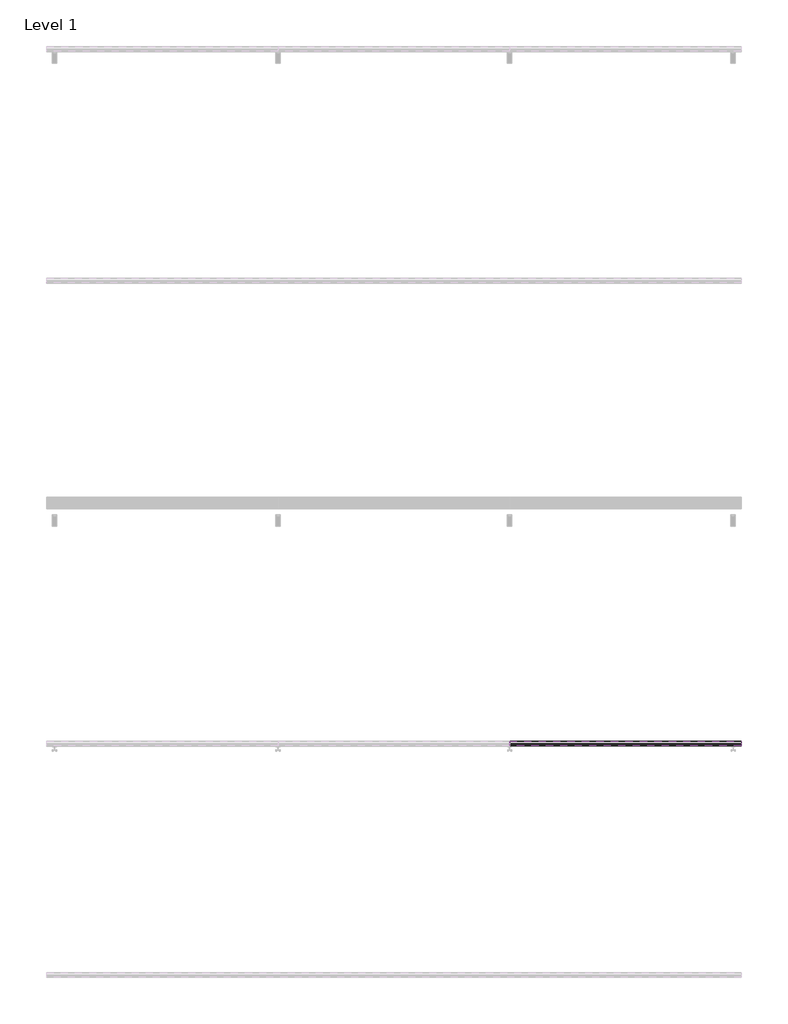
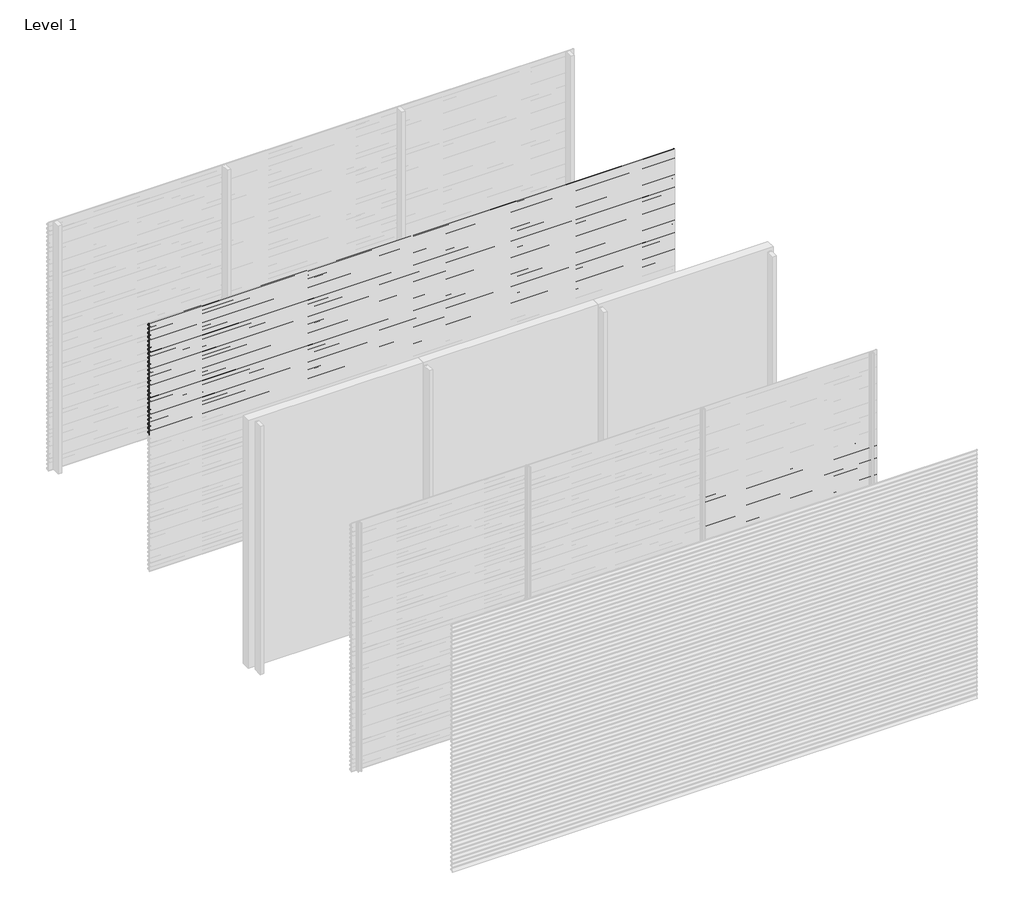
# One storey, part 13 of 38: 66 proxies.
"""IFC4 building model written with IfcOpenShell, lengths in millimetres."""

from ifc_helpers import new_model, si_unit, frame, origin, place, context, project, spatial, polyline, outline, extrude, element, save

model = new_model("IFC4")

# Units and contexts
model_context = context("Model", 3, world=origin())
ifc_project = project(units=[si_unit("LENGTHUNIT", "METRE", prefix="MILLI")], contexts=[model_context])

# Site, building, storey
site = spatial("IfcSite", under=ifc_project)
building = spatial("IfcBuilding", under=site)
storey = spatial("IfcBuildingStorey", under=building, Name="Level 1", Elevation=0.0)

# Proxies
placement = place(None, origin())
element("IfcBuildingElementProxy", 1, Name="Wall Sweeps", at=placement, inside=storey, context=model_context, shape_type="SweptSolid", body=[
    extrude(outline(polyline([(-37996.75, 3000.0), (-37996.75, 2989.19656), (-37974.6057113, 2976.4115489), (-37957.0, 2959.0472005), (-37957.0, 2944.0472005), (-37958.3, 2945.0268207), (-37958.3, 2958.5034593), (-37969.4914725, 2969.541504), (-37994.2797376, 2940.0), (-37995.9767671, 2940.0), (-37970.4200307, 2970.4573323), (-37975.3999793, 2975.3690091), (-37998.0, 2988.4171371), (-37998.0, 3000.0), (-37996.75, 3000.0)])), frame((0.0, 0.0, 0.0), z_axis=(1.0, 0.0, 0.0), x_axis=(0.0, 1.0, 0.0)), (0.0, 0.0, 1.0), 6000.0),
])
element("IfcBuildingElementProxy", 2, Name="Wall Sweeps", at=placement, inside=storey, context=model_context, shape_type="SweptSolid", body=[
    extrude(outline(polyline([(-37996.75, 2950.0), (-37996.75, 2939.19656), (-37974.6057113, 2926.4115489), (-37957.0, 2909.0472005), (-37957.0, 2894.0472005), (-37958.3, 2895.0268207), (-37958.3, 2908.5034593), (-37969.4914725, 2919.541504), (-37994.2797376, 2890.0), (-37995.9767671, 2890.0), (-37970.4200307, 2920.4573323), (-37975.3999793, 2925.3690091), (-37998.0, 2938.4171371), (-37998.0, 2950.0), (-37996.75, 2950.0)])), frame((0.0, 0.0, 0.0), z_axis=(1.0, 0.0, 0.0), x_axis=(0.0, 1.0, 0.0)), (0.0, 0.0, 1.0), 6000.0),
])
element("IfcBuildingElementProxy", 3, Name="Wall Sweeps", at=placement, inside=storey, context=model_context, shape_type="SweptSolid", body=[
    extrude(outline(polyline([(-37996.75, 2900.0), (-37996.75, 2889.19656), (-37974.6057113, 2876.4115489), (-37957.0, 2859.0472005), (-37957.0, 2844.0472005), (-37958.3, 2845.0268207), (-37958.3, 2858.5034593), (-37969.4914725, 2869.541504), (-37994.2797376, 2840.0), (-37995.9767671, 2840.0), (-37970.4200307, 2870.4573323), (-37975.3999793, 2875.3690091), (-37998.0, 2888.4171371), (-37998.0, 2900.0), (-37996.75, 2900.0)])), frame((0.0, 0.0, 0.0), z_axis=(1.0, 0.0, 0.0), x_axis=(0.0, 1.0, 0.0)), (0.0, 0.0, 1.0), 6000.0),
])
element("IfcBuildingElementProxy", 4, Name="Wall Sweeps", at=placement, inside=storey, context=model_context, shape_type="SweptSolid", body=[
    extrude(outline(polyline([(-37996.75, 2850.0), (-37996.75, 2839.19656), (-37974.6057113, 2826.4115489), (-37957.0, 2809.0472005), (-37957.0, 2794.0472005), (-37958.3, 2795.0268207), (-37958.3, 2808.5034593), (-37969.4914725, 2819.541504), (-37994.2797376, 2790.0), (-37995.9767671, 2790.0), (-37970.4200307, 2820.4573323), (-37975.3999793, 2825.3690091), (-37998.0, 2838.4171371), (-37998.0, 2850.0), (-37996.75, 2850.0)])), frame((0.0, 0.0, 0.0), z_axis=(1.0, 0.0, 0.0), x_axis=(0.0, 1.0, 0.0)), (0.0, 0.0, 1.0), 6000.0),
])
element("IfcBuildingElementProxy", 5, Name="Wall Sweeps", at=placement, inside=storey, context=model_context, shape_type="SweptSolid", body=[
    extrude(outline(polyline([(-37996.75, 2800.0), (-37996.75, 2789.19656), (-37974.6057113, 2776.4115489), (-37957.0, 2759.0472005), (-37957.0, 2744.0472005), (-37958.3, 2745.0268207), (-37958.3, 2758.5034593), (-37969.4914725, 2769.541504), (-37994.2797376, 2740.0), (-37995.9767671, 2740.0), (-37970.4200307, 2770.4573323), (-37975.3999793, 2775.3690091), (-37998.0, 2788.4171371), (-37998.0, 2800.0), (-37996.75, 2800.0)])), frame((0.0, 0.0, 0.0), z_axis=(1.0, 0.0, 0.0), x_axis=(0.0, 1.0, 0.0)), (0.0, 0.0, 1.0), 6000.0),
])
element("IfcBuildingElementProxy", 6, Name="Wall Sweeps", at=placement, inside=storey, context=model_context, shape_type="SweptSolid", body=[
    extrude(outline(polyline([(-37996.75, 2750.0), (-37996.75, 2739.19656), (-37974.6057113, 2726.4115489), (-37957.0, 2709.0472005), (-37957.0, 2694.0472005), (-37958.3, 2695.0268207), (-37958.3, 2708.5034593), (-37969.4914725, 2719.541504), (-37994.2797376, 2690.0), (-37995.9767671, 2690.0), (-37970.4200307, 2720.4573323), (-37975.3999793, 2725.3690091), (-37998.0, 2738.4171371), (-37998.0, 2750.0), (-37996.75, 2750.0)])), frame((0.0, 0.0, 0.0), z_axis=(1.0, 0.0, 0.0), x_axis=(0.0, 1.0, 0.0)), (0.0, 0.0, 1.0), 6000.0),
])
element("IfcBuildingElementProxy", 7, Name="Wall Sweeps", at=placement, inside=storey, context=model_context, shape_type="SweptSolid", body=[
    extrude(outline(polyline([(-37996.75, 2700.0), (-37996.75, 2689.19656), (-37974.6057113, 2676.4115489), (-37957.0, 2659.0472005), (-37957.0, 2644.0472005), (-37958.3, 2645.0268207), (-37958.3, 2658.5034593), (-37969.4914725, 2669.541504), (-37994.2797376, 2640.0), (-37995.9767671, 2640.0), (-37970.4200307, 2670.4573323), (-37975.3999793, 2675.3690091), (-37998.0, 2688.4171371), (-37998.0, 2700.0), (-37996.75, 2700.0)])), frame((0.0, 0.0, 0.0), z_axis=(1.0, 0.0, 0.0), x_axis=(0.0, 1.0, 0.0)), (0.0, 0.0, 1.0), 6000.0),
])
element("IfcBuildingElementProxy", 8, Name="Wall Sweeps", at=placement, inside=storey, context=model_context, shape_type="SweptSolid", body=[
    extrude(outline(polyline([(-37996.75, 2650.0), (-37996.75, 2639.19656), (-37974.6057113, 2626.4115489), (-37957.0, 2609.0472005), (-37957.0, 2594.0472005), (-37958.3, 2595.0268207), (-37958.3, 2608.5034593), (-37969.4914725, 2619.541504), (-37994.2797376, 2590.0), (-37995.9767671, 2590.0), (-37970.4200307, 2620.4573323), (-37975.3999793, 2625.3690091), (-37998.0, 2638.4171371), (-37998.0, 2650.0), (-37996.75, 2650.0)])), frame((0.0, 0.0, 0.0), z_axis=(1.0, 0.0, 0.0), x_axis=(0.0, 1.0, 0.0)), (0.0, 0.0, 1.0), 6000.0),
])
element("IfcBuildingElementProxy", 9, Name="Wall Sweeps", at=placement, inside=storey, context=model_context, shape_type="SweptSolid", body=[
    extrude(outline(polyline([(-37996.75, 2600.0), (-37996.75, 2589.19656), (-37974.6057113, 2576.4115489), (-37957.0, 2559.0472005), (-37957.0, 2544.0472005), (-37958.3, 2545.0268207), (-37958.3, 2558.5034593), (-37969.4914725, 2569.541504), (-37994.2797376, 2540.0), (-37995.9767671, 2540.0), (-37970.4200307, 2570.4573323), (-37975.3999793, 2575.3690091), (-37998.0, 2588.4171371), (-37998.0, 2600.0), (-37996.75, 2600.0)])), frame((0.0, 0.0, 0.0), z_axis=(1.0, 0.0, 0.0), x_axis=(0.0, 1.0, 0.0)), (0.0, 0.0, 1.0), 6000.0),
])
element("IfcBuildingElementProxy", 10, Name="Wall Sweeps", at=placement, inside=storey, context=model_context, shape_type="SweptSolid", body=[
    extrude(outline(polyline([(-37996.75, 2550.0), (-37996.75, 2539.19656), (-37974.6057113, 2526.4115489), (-37957.0, 2509.0472005), (-37957.0, 2494.0472005), (-37958.3, 2495.0268207), (-37958.3, 2508.5034593), (-37969.4914725, 2519.541504), (-37994.2797376, 2490.0), (-37995.9767671, 2490.0), (-37970.4200307, 2520.4573323), (-37975.3999793, 2525.3690091), (-37998.0, 2538.4171371), (-37998.0, 2550.0), (-37996.75, 2550.0)])), frame((0.0, 0.0, 0.0), z_axis=(1.0, 0.0, 0.0), x_axis=(0.0, 1.0, 0.0)), (0.0, 0.0, 1.0), 6000.0),
])
element("IfcBuildingElementProxy", 11, Name="Wall Sweeps", at=placement, inside=storey, context=model_context, shape_type="SweptSolid", body=[
    extrude(outline(polyline([(-37996.75, 2500.0), (-37996.75, 2489.19656), (-37974.6057113, 2476.4115489), (-37957.0, 2459.0472005), (-37957.0, 2444.0472005), (-37958.3, 2445.0268207), (-37958.3, 2458.5034593), (-37969.4914725, 2469.541504), (-37994.2797376, 2440.0), (-37995.9767671, 2440.0), (-37970.4200307, 2470.4573323), (-37975.3999793, 2475.3690091), (-37998.0, 2488.4171371), (-37998.0, 2500.0), (-37996.75, 2500.0)])), frame((0.0, 0.0, 0.0), z_axis=(1.0, 0.0, 0.0), x_axis=(0.0, 1.0, 0.0)), (0.0, 0.0, 1.0), 6000.0),
])
element("IfcBuildingElementProxy", 12, Name="Wall Sweeps", at=placement, inside=storey, context=model_context, shape_type="SweptSolid", body=[
    extrude(outline(polyline([(-37996.75, 2450.0), (-37996.75, 2439.19656), (-37974.6057113, 2426.4115489), (-37957.0, 2409.0472005), (-37957.0, 2394.0472005), (-37958.3, 2395.0268207), (-37958.3, 2408.5034593), (-37969.4914725, 2419.541504), (-37994.2797376, 2390.0), (-37995.9767671, 2390.0), (-37970.4200307, 2420.4573323), (-37975.3999793, 2425.3690091), (-37998.0, 2438.4171371), (-37998.0, 2450.0), (-37996.75, 2450.0)])), frame((0.0, 0.0, 0.0), z_axis=(1.0, 0.0, 0.0), x_axis=(0.0, 1.0, 0.0)), (0.0, 0.0, 1.0), 6000.0),
])
element("IfcBuildingElementProxy", 13, Name="Wall Sweeps", at=placement, inside=storey, context=model_context, shape_type="SweptSolid", body=[
    extrude(outline(polyline([(-37996.75, 2400.0), (-37996.75, 2389.19656), (-37974.6057113, 2376.4115489), (-37957.0, 2359.0472005), (-37957.0, 2344.0472005), (-37958.3, 2345.0268207), (-37958.3, 2358.5034593), (-37969.4914725, 2369.541504), (-37994.2797376, 2340.0), (-37995.9767671, 2340.0), (-37970.4200307, 2370.4573323), (-37975.3999793, 2375.3690091), (-37998.0, 2388.4171371), (-37998.0, 2400.0), (-37996.75, 2400.0)])), frame((0.0, 0.0, 0.0), z_axis=(1.0, 0.0, 0.0), x_axis=(0.0, 1.0, 0.0)), (0.0, 0.0, 1.0), 6000.0),
])
element("IfcBuildingElementProxy", 14, Name="Wall Sweeps", at=placement, inside=storey, context=model_context, shape_type="SweptSolid", body=[
    extrude(outline(polyline([(-37996.75, 2350.0), (-37996.75, 2339.19656), (-37974.6057113, 2326.4115489), (-37957.0, 2309.0472005), (-37957.0, 2294.0472005), (-37958.3, 2295.0268207), (-37958.3, 2308.5034593), (-37969.4914725, 2319.541504), (-37994.2797376, 2290.0), (-37995.9767671, 2290.0), (-37970.4200307, 2320.4573323), (-37975.3999793, 2325.3690091), (-37998.0, 2338.4171371), (-37998.0, 2350.0), (-37996.75, 2350.0)])), frame((0.0, 0.0, 0.0), z_axis=(1.0, 0.0, 0.0), x_axis=(0.0, 1.0, 0.0)), (0.0, 0.0, 1.0), 6000.0),
])
element("IfcBuildingElementProxy", 15, Name="Wall Sweeps", at=placement, inside=storey, context=model_context, shape_type="SweptSolid", body=[
    extrude(outline(polyline([(-37996.75, 2300.0), (-37996.75, 2289.19656), (-37974.6057113, 2276.4115489), (-37957.0, 2259.0472005), (-37957.0, 2244.0472005), (-37958.3, 2245.0268207), (-37958.3, 2258.5034593), (-37969.4914725, 2269.541504), (-37994.2797376, 2240.0), (-37995.9767671, 2240.0), (-37970.4200307, 2270.4573323), (-37975.3999793, 2275.3690091), (-37998.0, 2288.4171371), (-37998.0, 2300.0), (-37996.75, 2300.0)])), frame((0.0, 0.0, 0.0), z_axis=(1.0, 0.0, 0.0), x_axis=(0.0, 1.0, 0.0)), (0.0, 0.0, 1.0), 6000.0),
])
element("IfcBuildingElementProxy", 16, Name="Wall Sweeps", at=placement, inside=storey, context=model_context, shape_type="SweptSolid", body=[
    extrude(outline(polyline([(-37996.75, 2250.0), (-37996.75, 2239.19656), (-37974.6057113, 2226.4115489), (-37957.0, 2209.0472005), (-37957.0, 2194.0472005), (-37958.3, 2195.0268207), (-37958.3, 2208.5034593), (-37969.4914725, 2219.541504), (-37994.2797376, 2190.0), (-37995.9767671, 2190.0), (-37970.4200307, 2220.4573323), (-37975.3999793, 2225.3690091), (-37998.0, 2238.4171371), (-37998.0, 2250.0), (-37996.75, 2250.0)])), frame((0.0, 0.0, 0.0), z_axis=(1.0, 0.0, 0.0), x_axis=(0.0, 1.0, 0.0)), (0.0, 0.0, 1.0), 6000.0),
])
element("IfcBuildingElementProxy", 17, Name="Wall Sweeps", at=placement, inside=storey, context=model_context, shape_type="SweptSolid", body=[
    extrude(outline(polyline([(-37996.75, 2200.0), (-37996.75, 2189.19656), (-37974.6057113, 2176.4115489), (-37957.0, 2159.0472005), (-37957.0, 2144.0472005), (-37958.3, 2145.0268207), (-37958.3, 2158.5034593), (-37969.4914725, 2169.541504), (-37994.2797376, 2140.0), (-37995.9767671, 2140.0), (-37970.4200307, 2170.4573323), (-37975.3999793, 2175.3690091), (-37998.0, 2188.4171371), (-37998.0, 2200.0), (-37996.75, 2200.0)])), frame((0.0, 0.0, 0.0), z_axis=(1.0, 0.0, 0.0), x_axis=(0.0, 1.0, 0.0)), (0.0, 0.0, 1.0), 6000.0),
])
element("IfcBuildingElementProxy", 18, Name="Wall Sweeps", at=placement, inside=storey, context=model_context, shape_type="SweptSolid", body=[
    extrude(outline(polyline([(-37996.75, 2150.0), (-37996.75, 2139.19656), (-37974.6057113, 2126.4115489), (-37957.0, 2109.0472005), (-37957.0, 2094.0472005), (-37958.3, 2095.0268207), (-37958.3, 2108.5034593), (-37969.4914725, 2119.541504), (-37994.2797376, 2090.0), (-37995.9767671, 2090.0), (-37970.4200307, 2120.4573323), (-37975.3999793, 2125.3690091), (-37998.0, 2138.4171371), (-37998.0, 2150.0), (-37996.75, 2150.0)])), frame((0.0, 0.0, 0.0), z_axis=(1.0, 0.0, 0.0), x_axis=(0.0, 1.0, 0.0)), (0.0, 0.0, 1.0), 6000.0),
])
element("IfcBuildingElementProxy", 19, Name="Wall Sweeps", at=placement, inside=storey, context=model_context, shape_type="SweptSolid", body=[
    extrude(outline(polyline([(-37996.75, 2100.0), (-37996.75, 2089.19656), (-37974.6057113, 2076.4115489), (-37957.0, 2059.0472005), (-37957.0, 2044.0472005), (-37958.3, 2045.0268207), (-37958.3, 2058.5034593), (-37969.4914725, 2069.541504), (-37994.2797376, 2040.0), (-37995.9767671, 2040.0), (-37970.4200307, 2070.4573323), (-37975.3999793, 2075.3690091), (-37998.0, 2088.4171371), (-37998.0, 2100.0), (-37996.75, 2100.0)])), frame((0.0, 0.0, 0.0), z_axis=(1.0, 0.0, 0.0), x_axis=(0.0, 1.0, 0.0)), (0.0, 0.0, 1.0), 6000.0),
])
element("IfcBuildingElementProxy", 20, Name="Wall Sweeps", at=placement, inside=storey, context=model_context, shape_type="SweptSolid", body=[
    extrude(outline(polyline([(-37996.75, 2050.0), (-37996.75, 2039.19656), (-37974.6057113, 2026.4115489), (-37957.0, 2009.0472005), (-37957.0, 1994.0472005), (-37958.3, 1995.0268207), (-37958.3, 2008.5034593), (-37969.4914725, 2019.541504), (-37994.2797376, 1990.0), (-37995.9767671, 1990.0), (-37970.4200307, 2020.4573323), (-37975.3999793, 2025.3690091), (-37998.0, 2038.4171371), (-37998.0, 2050.0), (-37996.75, 2050.0)])), frame((0.0, 0.0, 0.0), z_axis=(1.0, 0.0, 0.0), x_axis=(0.0, 1.0, 0.0)), (0.0, 0.0, 1.0), 6000.0),
])
element("IfcBuildingElementProxy", 21, Name="Wall Sweeps", at=placement, inside=storey, context=model_context, shape_type="SweptSolid", body=[
    extrude(outline(polyline([(-37996.75, 2000.0), (-37996.75, 1989.19656), (-37974.6057113, 1976.4115489), (-37957.0, 1959.0472005), (-37957.0, 1944.0472005), (-37958.3, 1945.0268207), (-37958.3, 1958.5034593), (-37969.4914725, 1969.541504), (-37994.2797376, 1940.0), (-37995.9767671, 1940.0), (-37970.4200307, 1970.4573323), (-37975.3999793, 1975.3690091), (-37998.0, 1988.4171371), (-37998.0, 2000.0), (-37996.75, 2000.0)])), frame((0.0, 0.0, 0.0), z_axis=(1.0, 0.0, 0.0), x_axis=(0.0, 1.0, 0.0)), (0.0, 0.0, 1.0), 6000.0),
])
element("IfcBuildingElementProxy", 22, Name="Wall Sweeps", at=placement, inside=storey, context=model_context, shape_type="SweptSolid", body=[
    extrude(outline(polyline([(-37996.75, 1950.0), (-37996.75, 1939.19656), (-37974.6057113, 1926.4115489), (-37957.0, 1909.0472005), (-37957.0, 1894.0472005), (-37958.3, 1895.0268207), (-37958.3, 1908.5034593), (-37969.4914725, 1919.541504), (-37994.2797376, 1890.0), (-37995.9767671, 1890.0), (-37970.4200307, 1920.4573323), (-37975.3999793, 1925.3690091), (-37998.0, 1938.4171371), (-37998.0, 1950.0), (-37996.75, 1950.0)])), frame((0.0, 0.0, 0.0), z_axis=(1.0, 0.0, 0.0), x_axis=(0.0, 1.0, 0.0)), (0.0, 0.0, 1.0), 6000.0),
])
element("IfcBuildingElementProxy", 23, Name="Wall Sweeps", at=placement, inside=storey, context=model_context, shape_type="SweptSolid", body=[
    extrude(outline(polyline([(-37996.75, 1900.0), (-37996.75, 1889.19656), (-37974.6057113, 1876.4115489), (-37957.0, 1859.0472005), (-37957.0, 1844.0472005), (-37958.3, 1845.0268207), (-37958.3, 1858.5034593), (-37969.4914725, 1869.541504), (-37994.2797376, 1840.0), (-37995.9767671, 1840.0), (-37970.4200307, 1870.4573323), (-37975.3999793, 1875.3690091), (-37998.0, 1888.4171371), (-37998.0, 1900.0), (-37996.75, 1900.0)])), frame((0.0, 0.0, 0.0), z_axis=(1.0, 0.0, 0.0), x_axis=(0.0, 1.0, 0.0)), (0.0, 0.0, 1.0), 6000.0),
])
element("IfcBuildingElementProxy", 24, Name="Wall Sweeps", at=placement, inside=storey, context=model_context, shape_type="SweptSolid", body=[
    extrude(outline(polyline([(-37996.75, 1850.0), (-37996.75, 1839.19656), (-37974.6057113, 1826.4115489), (-37957.0, 1809.0472005), (-37957.0, 1794.0472005), (-37958.3, 1795.0268207), (-37958.3, 1808.5034593), (-37969.4914725, 1819.541504), (-37994.2797376, 1790.0), (-37995.9767671, 1790.0), (-37970.4200307, 1820.4573323), (-37975.3999793, 1825.3690091), (-37998.0, 1838.4171371), (-37998.0, 1850.0), (-37996.75, 1850.0)])), frame((0.0, 0.0, 0.0), z_axis=(1.0, 0.0, 0.0), x_axis=(0.0, 1.0, 0.0)), (0.0, 0.0, 1.0), 6000.0),
])
element("IfcBuildingElementProxy", 25, Name="Wall Sweeps", at=placement, inside=storey, context=model_context, shape_type="SweptSolid", body=[
    extrude(outline(polyline([(-37996.75, 1800.0), (-37996.75, 1789.19656), (-37974.6057113, 1776.4115489), (-37957.0, 1759.0472005), (-37957.0, 1744.0472005), (-37958.3, 1745.0268207), (-37958.3, 1758.5034593), (-37969.4914725, 1769.541504), (-37994.2797376, 1740.0), (-37995.9767671, 1740.0), (-37970.4200307, 1770.4573323), (-37975.3999793, 1775.3690091), (-37998.0, 1788.4171371), (-37998.0, 1800.0), (-37996.75, 1800.0)])), frame((0.0, 0.0, 0.0), z_axis=(1.0, 0.0, 0.0), x_axis=(0.0, 1.0, 0.0)), (0.0, 0.0, 1.0), 6000.0),
])
element("IfcBuildingElementProxy", 26, Name="Wall Sweeps", at=placement, inside=storey, context=model_context, shape_type="SweptSolid", body=[
    extrude(outline(polyline([(-37996.75, 1750.0), (-37996.75, 1739.19656), (-37974.6057113, 1726.4115489), (-37957.0, 1709.0472005), (-37957.0, 1694.0472005), (-37958.3, 1695.0268207), (-37958.3, 1708.5034593), (-37969.4914725, 1719.541504), (-37994.2797376, 1690.0), (-37995.9767671, 1690.0), (-37970.4200307, 1720.4573323), (-37975.3999793, 1725.3690091), (-37998.0, 1738.4171371), (-37998.0, 1750.0), (-37996.75, 1750.0)])), frame((0.0, 0.0, 0.0), z_axis=(1.0, 0.0, 0.0), x_axis=(0.0, 1.0, 0.0)), (0.0, 0.0, 1.0), 6000.0),
])
element("IfcBuildingElementProxy", 27, Name="Wall Sweeps", at=placement, inside=storey, context=model_context, shape_type="SweptSolid", body=[
    extrude(outline(polyline([(-37996.75, 1700.0), (-37996.75, 1689.19656), (-37974.6057113, 1676.4115489), (-37957.0, 1659.0472005), (-37957.0, 1644.0472005), (-37958.3, 1645.0268207), (-37958.3, 1658.5034593), (-37969.4914725, 1669.541504), (-37994.2797376, 1640.0), (-37995.9767671, 1640.0), (-37970.4200307, 1670.4573323), (-37975.3999793, 1675.3690091), (-37998.0, 1688.4171371), (-37998.0, 1700.0), (-37996.75, 1700.0)])), frame((0.0, 0.0, 0.0), z_axis=(1.0, 0.0, 0.0), x_axis=(0.0, 1.0, 0.0)), (0.0, 0.0, 1.0), 6000.0),
])
element("IfcBuildingElementProxy", 28, Name="Wall Sweeps", at=placement, inside=storey, context=model_context, shape_type="SweptSolid", body=[
    extrude(outline(polyline([(-41996.75, 1950.0), (-41996.75, 1939.19656), (-41974.6057113, 1926.4115489), (-41957.0, 1909.0472005), (-41957.0, 1894.0472005), (-41958.3, 1895.0268207), (-41958.3, 1908.5034593), (-41969.4914725, 1919.541504), (-41994.2797376, 1890.0), (-41995.9767671, 1890.0), (-41970.4200307, 1920.4573323), (-41975.3999793, 1925.3690091), (-41998.0, 1938.4171371), (-41998.0, 1950.0), (-41996.75, 1950.0)])), frame((4000.0, 0.0, 0.0), z_axis=(1.0, 0.0, 0.0), x_axis=(0.0, 1.0, 0.0)), (0.0, 0.0, 1.0), 2000.0),
])
element("IfcBuildingElementProxy", 29, Name="Wall Sweeps", at=placement, inside=storey, context=model_context, shape_type="SweptSolid", body=[
    extrude(outline(polyline([(-41996.75, 1900.0), (-41996.75, 1889.19656), (-41974.6057113, 1876.4115489), (-41957.0, 1859.0472005), (-41957.0, 1844.0472005), (-41958.3, 1845.0268207), (-41958.3, 1858.5034593), (-41969.4914725, 1869.541504), (-41994.2797376, 1840.0), (-41995.9767671, 1840.0), (-41970.4200307, 1870.4573323), (-41975.3999793, 1875.3690091), (-41998.0, 1888.4171371), (-41998.0, 1900.0), (-41996.75, 1900.0)])), frame((4000.0, 0.0, 0.0), z_axis=(1.0, 0.0, 0.0), x_axis=(0.0, 1.0, 0.0)), (0.0, 0.0, 1.0), 2000.0),
])
element("IfcBuildingElementProxy", 30, Name="Wall Sweeps", at=placement, inside=storey, context=model_context, shape_type="SweptSolid", body=[
    extrude(outline(polyline([(-41996.75, 1850.0), (-41996.75, 1839.19656), (-41974.6057113, 1826.4115489), (-41957.0, 1809.0472005), (-41957.0, 1794.0472005), (-41958.3, 1795.0268207), (-41958.3, 1808.5034593), (-41969.4914725, 1819.541504), (-41994.2797376, 1790.0), (-41995.9767671, 1790.0), (-41970.4200307, 1820.4573323), (-41975.3999793, 1825.3690091), (-41998.0, 1838.4171371), (-41998.0, 1850.0), (-41996.75, 1850.0)])), frame((4000.0, 0.0, 0.0), z_axis=(1.0, 0.0, 0.0), x_axis=(0.0, 1.0, 0.0)), (0.0, 0.0, 1.0), 2000.0),
])
element("IfcBuildingElementProxy", 31, Name="Wall Sweeps", at=placement, inside=storey, context=model_context, shape_type="SweptSolid", body=[
    extrude(outline(polyline([(-41996.75, 1800.0), (-41996.75, 1789.19656), (-41974.6057113, 1776.4115489), (-41957.0, 1759.0472005), (-41957.0, 1744.0472005), (-41958.3, 1745.0268207), (-41958.3, 1758.5034593), (-41969.4914725, 1769.541504), (-41994.2797376, 1740.0), (-41995.9767671, 1740.0), (-41970.4200307, 1770.4573323), (-41975.3999793, 1775.3690091), (-41998.0, 1788.4171371), (-41998.0, 1800.0), (-41996.75, 1800.0)])), frame((4000.0, 0.0, 0.0), z_axis=(1.0, 0.0, 0.0), x_axis=(0.0, 1.0, 0.0)), (0.0, 0.0, 1.0), 2000.0),
])
element("IfcBuildingElementProxy", 32, Name="Wall Sweeps", at=placement, inside=storey, context=model_context, shape_type="SweptSolid", body=[
    extrude(outline(polyline([(-41996.75, 1750.0), (-41996.75, 1739.19656), (-41974.6057113, 1726.4115489), (-41957.0, 1709.0472005), (-41957.0, 1694.0472005), (-41958.3, 1695.0268207), (-41958.3, 1708.5034593), (-41969.4914725, 1719.541504), (-41994.2797376, 1690.0), (-41995.9767671, 1690.0), (-41970.4200307, 1720.4573323), (-41975.3999793, 1725.3690091), (-41998.0, 1738.4171371), (-41998.0, 1750.0), (-41996.75, 1750.0)])), frame((4000.0, 0.0, 0.0), z_axis=(1.0, 0.0, 0.0), x_axis=(0.0, 1.0, 0.0)), (0.0, 0.0, 1.0), 2000.0),
])
element("IfcBuildingElementProxy", 33, Name="Wall Sweeps", at=placement, inside=storey, context=model_context, shape_type="SweptSolid", body=[
    extrude(outline(polyline([(-41996.75, 1700.0), (-41996.75, 1689.19656), (-41974.6057113, 1676.4115489), (-41957.0, 1659.0472005), (-41957.0, 1644.0472005), (-41958.3, 1645.0268207), (-41958.3, 1658.5034593), (-41969.4914725, 1669.541504), (-41994.2797376, 1640.0), (-41995.9767671, 1640.0), (-41970.4200307, 1670.4573323), (-41975.3999793, 1675.3690091), (-41998.0, 1688.4171371), (-41998.0, 1700.0), (-41996.75, 1700.0)])), frame((4000.0, 0.0, 0.0), z_axis=(1.0, 0.0, 0.0), x_axis=(0.0, 1.0, 0.0)), (0.0, 0.0, 1.0), 2000.0),
])
element("IfcBuildingElementProxy", 34, Name="Wall Sweeps", at=placement, inside=storey, context=model_context, shape_type="SweptSolid", body=[
    extrude(outline(polyline([(-41996.75, 1650.0), (-41996.75, 1639.19656), (-41974.6057113, 1626.4115489), (-41957.0, 1609.0472005), (-41957.0, 1594.0472005), (-41958.3, 1595.0268207), (-41958.3, 1608.5034593), (-41969.4914725, 1619.541504), (-41994.2797376, 1590.0), (-41995.9767671, 1590.0), (-41970.4200307, 1620.4573323), (-41975.3999793, 1625.3690091), (-41998.0, 1638.4171371), (-41998.0, 1650.0), (-41996.75, 1650.0)])), frame((4000.0, 0.0, 0.0), z_axis=(1.0, 0.0, 0.0), x_axis=(0.0, 1.0, 0.0)), (0.0, 0.0, 1.0), 2000.0),
])
element("IfcBuildingElementProxy", 35, Name="Wall Sweeps", at=placement, inside=storey, context=model_context, shape_type="SweptSolid", body=[
    extrude(outline(polyline([(-41996.75, 1600.0), (-41996.75, 1589.19656), (-41974.6057113, 1576.4115489), (-41957.0, 1559.0472005), (-41957.0, 1544.0472005), (-41958.3, 1545.0268207), (-41958.3, 1558.5034593), (-41969.4914725, 1569.541504), (-41994.2797376, 1540.0), (-41995.9767671, 1540.0), (-41970.4200307, 1570.4573323), (-41975.3999793, 1575.3690091), (-41998.0, 1588.4171371), (-41998.0, 1600.0), (-41996.75, 1600.0)])), frame((4000.0, 0.0, 0.0), z_axis=(1.0, 0.0, 0.0), x_axis=(0.0, 1.0, 0.0)), (0.0, 0.0, 1.0), 2000.0),
])
element("IfcBuildingElementProxy", 36, Name="Wall Sweeps", at=placement, inside=storey, context=model_context, shape_type="SweptSolid", body=[
    extrude(outline(polyline([(-41996.75, 1550.0), (-41996.75, 1539.19656), (-41974.6057113, 1526.4115489), (-41957.0, 1509.0472005), (-41957.0, 1494.0472005), (-41958.3, 1495.0268207), (-41958.3, 1508.5034593), (-41969.4914725, 1519.541504), (-41994.2797376, 1490.0), (-41995.9767671, 1490.0), (-41970.4200307, 1520.4573323), (-41975.3999793, 1525.3690091), (-41998.0, 1538.4171371), (-41998.0, 1550.0), (-41996.75, 1550.0)])), frame((4000.0, 0.0, 0.0), z_axis=(1.0, 0.0, 0.0), x_axis=(0.0, 1.0, 0.0)), (0.0, 0.0, 1.0), 2000.0),
])
element("IfcBuildingElementProxy", 37, Name="Wall Sweeps", at=placement, inside=storey, context=model_context, shape_type="SweptSolid", body=[
    extrude(outline(polyline([(-41996.75, 1500.0), (-41996.75, 1489.19656), (-41974.6057113, 1476.4115489), (-41957.0, 1459.0472005), (-41957.0, 1444.0472005), (-41958.3, 1445.0268207), (-41958.3, 1458.5034593), (-41969.4914725, 1469.541504), (-41994.2797376, 1440.0), (-41995.9767671, 1440.0), (-41970.4200307, 1470.4573323), (-41975.3999793, 1475.3690091), (-41998.0, 1488.4171371), (-41998.0, 1500.0), (-41996.75, 1500.0)])), frame((4000.0, 0.0, 0.0), z_axis=(1.0, 0.0, 0.0), x_axis=(0.0, 1.0, 0.0)), (0.0, 0.0, 1.0), 2000.0),
])
element("IfcBuildingElementProxy", 38, Name="Wall Sweeps", at=placement, inside=storey, context=model_context, shape_type="SweptSolid", body=[
    extrude(outline(polyline([(-41996.75, 1450.0), (-41996.75, 1439.19656), (-41974.6057113, 1426.4115489), (-41957.0, 1409.0472005), (-41957.0, 1394.0472005), (-41958.3, 1395.0268207), (-41958.3, 1408.5034593), (-41969.4914725, 1419.541504), (-41994.2797376, 1390.0), (-41995.9767671, 1390.0), (-41970.4200307, 1420.4573323), (-41975.3999793, 1425.3690091), (-41998.0, 1438.4171371), (-41998.0, 1450.0), (-41996.75, 1450.0)])), frame((4000.0, 0.0, 0.0), z_axis=(1.0, 0.0, 0.0), x_axis=(0.0, 1.0, 0.0)), (0.0, 0.0, 1.0), 2000.0),
])
element("IfcBuildingElementProxy", 39, Name="Wall Sweeps", at=placement, inside=storey, context=model_context, shape_type="SweptSolid", body=[
    extrude(outline(polyline([(-41996.75, 1400.0), (-41996.75, 1389.19656), (-41974.6057113, 1376.4115489), (-41957.0, 1359.0472005), (-41957.0, 1344.0472005), (-41958.3, 1345.0268207), (-41958.3, 1358.5034593), (-41969.4914725, 1369.541504), (-41994.2797376, 1340.0), (-41995.9767671, 1340.0), (-41970.4200307, 1370.4573323), (-41975.3999793, 1375.3690091), (-41998.0, 1388.4171371), (-41998.0, 1400.0), (-41996.75, 1400.0)])), frame((4000.0, 0.0, 0.0), z_axis=(1.0, 0.0, 0.0), x_axis=(0.0, 1.0, 0.0)), (0.0, 0.0, 1.0), 2000.0),
])
element("IfcBuildingElementProxy", 40, Name="Wall Sweeps", at=placement, inside=storey, context=model_context, shape_type="SweptSolid", body=[
    extrude(outline(polyline([(-41996.75, 1350.0), (-41996.75, 1339.19656), (-41974.6057113, 1326.4115489), (-41957.0, 1309.0472005), (-41957.0, 1294.0472005), (-41958.3, 1295.0268207), (-41958.3, 1308.5034593), (-41969.4914725, 1319.541504), (-41994.2797376, 1290.0), (-41995.9767671, 1290.0), (-41970.4200307, 1320.4573323), (-41975.3999793, 1325.3690091), (-41998.0, 1338.4171371), (-41998.0, 1350.0), (-41996.75, 1350.0)])), frame((4000.0, 0.0, 0.0), z_axis=(1.0, 0.0, 0.0), x_axis=(0.0, 1.0, 0.0)), (0.0, 0.0, 1.0), 2000.0),
])
element("IfcBuildingElementProxy", 41, Name="Wall Sweeps", at=placement, inside=storey, context=model_context, shape_type="SweptSolid", body=[
    extrude(outline(polyline([(-41996.75, 1300.0), (-41996.75, 1289.19656), (-41974.6057113, 1276.4115489), (-41957.0, 1259.0472005), (-41957.0, 1244.0472005), (-41958.3, 1245.0268207), (-41958.3, 1258.5034593), (-41969.4914725, 1269.541504), (-41994.2797376, 1240.0), (-41995.9767671, 1240.0), (-41970.4200307, 1270.4573323), (-41975.3999793, 1275.3690091), (-41998.0, 1288.4171371), (-41998.0, 1300.0), (-41996.75, 1300.0)])), frame((4000.0, 0.0, 0.0), z_axis=(1.0, 0.0, 0.0), x_axis=(0.0, 1.0, 0.0)), (0.0, 0.0, 1.0), 2000.0),
])
element("IfcBuildingElementProxy", 42, Name="Wall Sweeps", at=placement, inside=storey, context=model_context, shape_type="SweptSolid", body=[
    extrude(outline(polyline([(-41996.75, 1250.0), (-41996.75, 1239.19656), (-41974.6057113, 1226.4115489), (-41957.0, 1209.0472005), (-41957.0, 1194.0472005), (-41958.3, 1195.0268207), (-41958.3, 1208.5034593), (-41969.4914725, 1219.541504), (-41994.2797376, 1190.0), (-41995.9767671, 1190.0), (-41970.4200307, 1220.4573323), (-41975.3999793, 1225.3690091), (-41998.0, 1238.4171371), (-41998.0, 1250.0), (-41996.75, 1250.0)])), frame((4000.0, 0.0, 0.0), z_axis=(1.0, 0.0, 0.0), x_axis=(0.0, 1.0, 0.0)), (0.0, 0.0, 1.0), 2000.0),
])
element("IfcBuildingElementProxy", 43, Name="Wall Sweeps", at=placement, inside=storey, context=model_context, shape_type="SweptSolid", body=[
    extrude(outline(polyline([(-41996.75, 1200.0), (-41996.75, 1189.19656), (-41974.6057113, 1176.4115489), (-41957.0, 1159.0472005), (-41957.0, 1144.0472005), (-41958.3, 1145.0268207), (-41958.3, 1158.5034593), (-41969.4914725, 1169.541504), (-41994.2797376, 1140.0), (-41995.9767671, 1140.0), (-41970.4200307, 1170.4573323), (-41975.3999793, 1175.3690091), (-41998.0, 1188.4171371), (-41998.0, 1200.0), (-41996.75, 1200.0)])), frame((4000.0, 0.0, 0.0), z_axis=(1.0, 0.0, 0.0), x_axis=(0.0, 1.0, 0.0)), (0.0, 0.0, 1.0), 2000.0),
])
element("IfcBuildingElementProxy", 44, Name="Wall Sweeps", at=placement, inside=storey, context=model_context, shape_type="SweptSolid", body=[
    extrude(outline(polyline([(-41996.75, 1150.0), (-41996.75, 1139.19656), (-41974.6057113, 1126.4115489), (-41957.0, 1109.0472005), (-41957.0, 1094.0472005), (-41958.3, 1095.0268207), (-41958.3, 1108.5034593), (-41969.4914725, 1119.541504), (-41994.2797376, 1090.0), (-41995.9767671, 1090.0), (-41970.4200307, 1120.4573323), (-41975.3999793, 1125.3690091), (-41998.0, 1138.4171371), (-41998.0, 1150.0), (-41996.75, 1150.0)])), frame((4000.0, 0.0, 0.0), z_axis=(1.0, 0.0, 0.0), x_axis=(0.0, 1.0, 0.0)), (0.0, 0.0, 1.0), 2000.0),
])
element("IfcBuildingElementProxy", 45, Name="Wall Sweeps", at=placement, inside=storey, context=model_context, shape_type="SweptSolid", body=[
    extrude(outline(polyline([(-41996.75, 1100.0), (-41996.75, 1089.19656), (-41974.6057113, 1076.4115489), (-41957.0, 1059.0472005), (-41957.0, 1044.0472005), (-41958.3, 1045.0268207), (-41958.3, 1058.5034593), (-41969.4914725, 1069.541504), (-41994.2797376, 1040.0), (-41995.9767671, 1040.0), (-41970.4200307, 1070.4573323), (-41975.3999793, 1075.3690091), (-41998.0, 1088.4171371), (-41998.0, 1100.0), (-41996.75, 1100.0)])), frame((4000.0, 0.0, 0.0), z_axis=(1.0, 0.0, 0.0), x_axis=(0.0, 1.0, 0.0)), (0.0, 0.0, 1.0), 2000.0),
])
element("IfcBuildingElementProxy", 46, Name="Wall Sweeps", at=placement, inside=storey, context=model_context, shape_type="SweptSolid", body=[
    extrude(outline(polyline([(-41996.75, 1050.0), (-41996.75, 1039.19656), (-41974.6057113, 1026.4115489), (-41957.0, 1009.0472005), (-41957.0, 994.0472005), (-41958.3, 995.0268207), (-41958.3, 1008.5034593), (-41969.4914725, 1019.541504), (-41994.2797376, 990.0), (-41995.9767671, 990.0), (-41970.4200307, 1020.4573323), (-41975.3999793, 1025.3690091), (-41998.0, 1038.4171371), (-41998.0, 1050.0), (-41996.75, 1050.0)])), frame((4000.0, 0.0, 0.0), z_axis=(1.0, 0.0, 0.0), x_axis=(0.0, 1.0, 0.0)), (0.0, 0.0, 1.0), 2000.0),
])
element("IfcBuildingElementProxy", 47, Name="Wall Sweeps", at=placement, inside=storey, context=model_context, shape_type="SweptSolid", body=[
    extrude(outline(polyline([(-41996.75, 1000.0), (-41996.75, 989.19656), (-41974.6057113, 976.4115489), (-41957.0, 959.0472005), (-41957.0, 944.0472005), (-41958.3, 945.0268207), (-41958.3, 958.5034593), (-41969.4914725, 969.541504), (-41994.2797376, 940.0), (-41995.9767671, 940.0), (-41970.4200307, 970.4573323), (-41975.3999793, 975.3690091), (-41998.0, 988.4171371), (-41998.0, 1000.0), (-41996.75, 1000.0)])), frame((4000.0, 0.0, 0.0), z_axis=(1.0, 0.0, 0.0), x_axis=(0.0, 1.0, 0.0)), (0.0, 0.0, 1.0), 2000.0),
])
element("IfcBuildingElementProxy", 48, Name="Wall Sweeps", at=placement, inside=storey, context=model_context, shape_type="SweptSolid", body=[
    extrude(outline(polyline([(-41996.75, 950.0), (-41996.75, 939.19656), (-41974.6057113, 926.4115489), (-41957.0, 909.0472005), (-41957.0, 894.0472005), (-41958.3, 895.0268207), (-41958.3, 908.5034593), (-41969.4914725, 919.541504), (-41994.2797376, 890.0), (-41995.9767671, 890.0), (-41970.4200307, 920.4573323), (-41975.3999793, 925.3690091), (-41998.0, 938.4171371), (-41998.0, 950.0), (-41996.75, 950.0)])), frame((4000.0, 0.0, 0.0), z_axis=(1.0, 0.0, 0.0), x_axis=(0.0, 1.0, 0.0)), (0.0, 0.0, 1.0), 2000.0),
])
element("IfcBuildingElementProxy", 49, Name="Wall Sweeps", at=placement, inside=storey, context=model_context, shape_type="SweptSolid", body=[
    extrude(outline(polyline([(-41996.75, 900.0), (-41996.75, 889.19656), (-41974.6057113, 876.4115489), (-41957.0, 859.0472005), (-41957.0, 844.0472005), (-41958.3, 845.0268207), (-41958.3, 858.5034593), (-41969.4914725, 869.541504), (-41994.2797376, 840.0), (-41995.9767671, 840.0), (-41970.4200307, 870.4573323), (-41975.3999793, 875.3690091), (-41998.0, 888.4171371), (-41998.0, 900.0), (-41996.75, 900.0)])), frame((4000.0, 0.0, 0.0), z_axis=(1.0, 0.0, 0.0), x_axis=(0.0, 1.0, 0.0)), (0.0, 0.0, 1.0), 2000.0),
])
element("IfcBuildingElementProxy", 50, Name="Wall Sweeps", at=placement, inside=storey, context=model_context, shape_type="SweptSolid", body=[
    extrude(outline(polyline([(-41996.75, 850.0), (-41996.75, 839.19656), (-41974.6057113, 826.4115489), (-41957.0, 809.0472005), (-41957.0, 794.0472005), (-41958.3, 795.0268207), (-41958.3, 808.5034593), (-41969.4914725, 819.541504), (-41994.2797376, 790.0), (-41995.9767671, 790.0), (-41970.4200307, 820.4573323), (-41975.3999793, 825.3690091), (-41998.0, 838.4171371), (-41998.0, 850.0), (-41996.75, 850.0)])), frame((4000.0, 0.0, 0.0), z_axis=(1.0, 0.0, 0.0), x_axis=(0.0, 1.0, 0.0)), (0.0, 0.0, 1.0), 2000.0),
])
element("IfcBuildingElementProxy", 51, Name="Wall Sweeps", at=placement, inside=storey, context=model_context, shape_type="SweptSolid", body=[
    extrude(outline(polyline([(-41996.75, 800.0), (-41996.75, 789.19656), (-41974.6057113, 776.4115489), (-41957.0, 759.0472005), (-41957.0, 744.0472005), (-41958.3, 745.0268207), (-41958.3, 758.5034593), (-41969.4914725, 769.541504), (-41994.2797376, 740.0), (-41995.9767671, 740.0), (-41970.4200307, 770.4573323), (-41975.3999793, 775.3690091), (-41998.0, 788.4171371), (-41998.0, 800.0), (-41996.75, 800.0)])), frame((4000.0, 0.0, 0.0), z_axis=(1.0, 0.0, 0.0), x_axis=(0.0, 1.0, 0.0)), (0.0, 0.0, 1.0), 2000.0),
])
element("IfcBuildingElementProxy", 52, Name="Wall Sweeps", at=placement, inside=storey, context=model_context, shape_type="SweptSolid", body=[
    extrude(outline(polyline([(-41996.75, 750.0), (-41996.75, 739.19656), (-41974.6057113, 726.4115489), (-41957.0, 709.0472005), (-41957.0, 694.0472005), (-41958.3, 695.0268207), (-41958.3, 708.5034593), (-41969.4914725, 719.541504), (-41994.2797376, 690.0), (-41995.9767671, 690.0), (-41970.4200307, 720.4573323), (-41975.3999793, 725.3690091), (-41998.0, 738.4171371), (-41998.0, 750.0), (-41996.75, 750.0)])), frame((4000.0, 0.0, 0.0), z_axis=(1.0, 0.0, 0.0), x_axis=(0.0, 1.0, 0.0)), (0.0, 0.0, 1.0), 2000.0),
])
element("IfcBuildingElementProxy", 53, Name="Wall Sweeps", at=placement, inside=storey, context=model_context, shape_type="SweptSolid", body=[
    extrude(outline(polyline([(-41996.75, 700.0), (-41996.75, 689.19656), (-41974.6057113, 676.4115489), (-41957.0, 659.0472005), (-41957.0, 644.0472005), (-41958.3, 645.0268207), (-41958.3, 658.5034593), (-41969.4914725, 669.541504), (-41994.2797376, 640.0), (-41995.9767671, 640.0), (-41970.4200307, 670.4573323), (-41975.3999793, 675.3690091), (-41998.0, 688.4171371), (-41998.0, 700.0), (-41996.75, 700.0)])), frame((4000.0, 0.0, 0.0), z_axis=(1.0, 0.0, 0.0), x_axis=(0.0, 1.0, 0.0)), (0.0, 0.0, 1.0), 2000.0),
])
element("IfcBuildingElementProxy", 54, Name="Wall Sweeps", at=placement, inside=storey, context=model_context, shape_type="SweptSolid", body=[
    extrude(outline(polyline([(-41996.75, 650.0), (-41996.75, 639.19656), (-41974.6057113, 626.4115489), (-41957.0, 609.0472005), (-41957.0, 594.0472005), (-41958.3, 595.0268207), (-41958.3, 608.5034593), (-41969.4914725, 619.541504), (-41994.2797376, 590.0), (-41995.9767671, 590.0), (-41970.4200307, 620.4573323), (-41975.3999793, 625.3690091), (-41998.0, 638.4171371), (-41998.0, 650.0), (-41996.75, 650.0)])), frame((4000.0, 0.0, 0.0), z_axis=(1.0, 0.0, 0.0), x_axis=(0.0, 1.0, 0.0)), (0.0, 0.0, 1.0), 2000.0),
])
element("IfcBuildingElementProxy", 55, Name="Wall Sweeps", at=placement, inside=storey, context=model_context, shape_type="SweptSolid", body=[
    extrude(outline(polyline([(-41996.75, 600.0), (-41996.75, 589.19656), (-41974.6057113, 576.4115489), (-41957.0, 559.0472005), (-41957.0, 544.0472005), (-41958.3, 545.0268207), (-41958.3, 558.5034593), (-41969.4914725, 569.541504), (-41994.2797376, 540.0), (-41995.9767671, 540.0), (-41970.4200307, 570.4573323), (-41975.3999793, 575.3690091), (-41998.0, 588.4171371), (-41998.0, 600.0), (-41996.75, 600.0)])), frame((4000.0, 0.0, 0.0), z_axis=(1.0, 0.0, 0.0), x_axis=(0.0, 1.0, 0.0)), (0.0, 0.0, 1.0), 2000.0),
])
element("IfcBuildingElementProxy", 56, Name="Wall Sweeps", at=placement, inside=storey, context=model_context, shape_type="SweptSolid", body=[
    extrude(outline(polyline([(-41996.75, 550.0), (-41996.75, 539.19656), (-41974.6057113, 526.4115489), (-41957.0, 509.0472005), (-41957.0, 494.0472005), (-41958.3, 495.0268207), (-41958.3, 508.5034593), (-41969.4914725, 519.541504), (-41994.2797376, 490.0), (-41995.9767671, 490.0), (-41970.4200307, 520.4573323), (-41975.3999793, 525.3690091), (-41998.0, 538.4171371), (-41998.0, 550.0), (-41996.75, 550.0)])), frame((4000.0, 0.0, 0.0), z_axis=(1.0, 0.0, 0.0), x_axis=(0.0, 1.0, 0.0)), (0.0, 0.0, 1.0), 2000.0),
])
element("IfcBuildingElementProxy", 57, Name="Wall Sweeps", at=placement, inside=storey, context=model_context, shape_type="SweptSolid", body=[
    extrude(outline(polyline([(-41996.75, 500.0), (-41996.75, 489.19656), (-41974.6057113, 476.4115489), (-41957.0, 459.0472005), (-41957.0, 444.0472005), (-41958.3, 445.0268207), (-41958.3, 458.5034593), (-41969.4914725, 469.541504), (-41994.2797376, 440.0), (-41995.9767671, 440.0), (-41970.4200307, 470.4573323), (-41975.3999793, 475.3690091), (-41998.0, 488.4171371), (-41998.0, 500.0), (-41996.75, 500.0)])), frame((4000.0, 0.0, 0.0), z_axis=(1.0, 0.0, 0.0), x_axis=(0.0, 1.0, 0.0)), (0.0, 0.0, 1.0), 2000.0),
])
element("IfcBuildingElementProxy", 58, Name="Wall Sweeps", at=placement, inside=storey, context=model_context, shape_type="SweptSolid", body=[
    extrude(outline(polyline([(-41996.75, 450.0), (-41996.75, 439.19656), (-41974.6057113, 426.4115489), (-41957.0, 409.0472005), (-41957.0, 394.0472005), (-41958.3, 395.0268207), (-41958.3, 408.5034593), (-41969.4914725, 419.541504), (-41994.2797376, 390.0), (-41995.9767671, 390.0), (-41970.4200307, 420.4573323), (-41975.3999793, 425.3690091), (-41998.0, 438.4171371), (-41998.0, 450.0), (-41996.75, 450.0)])), frame((4000.0, 0.0, 0.0), z_axis=(1.0, 0.0, 0.0), x_axis=(0.0, 1.0, 0.0)), (0.0, 0.0, 1.0), 2000.0),
])
element("IfcBuildingElementProxy", 59, Name="Wall Sweeps", at=placement, inside=storey, context=model_context, shape_type="SweptSolid", body=[
    extrude(outline(polyline([(-41996.75, 400.0), (-41996.75, 389.19656), (-41974.6057113, 376.4115489), (-41957.0, 359.0472005), (-41957.0, 344.0472005), (-41958.3, 345.0268207), (-41958.3, 358.5034593), (-41969.4914725, 369.541504), (-41994.2797376, 340.0), (-41995.9767671, 340.0), (-41970.4200307, 370.4573323), (-41975.3999793, 375.3690091), (-41998.0, 388.4171371), (-41998.0, 400.0), (-41996.75, 400.0)])), frame((4000.0, 0.0, 0.0), z_axis=(1.0, 0.0, 0.0), x_axis=(0.0, 1.0, 0.0)), (0.0, 0.0, 1.0), 2000.0),
])
element("IfcBuildingElementProxy", 60, Name="Wall Sweeps", at=placement, inside=storey, context=model_context, shape_type="SweptSolid", body=[
    extrude(outline(polyline([(-41996.75, 350.0), (-41996.75, 339.19656), (-41974.6057113, 326.4115489), (-41957.0, 309.0472005), (-41957.0, 294.0472005), (-41958.3, 295.0268207), (-41958.3, 308.5034593), (-41969.4914725, 319.541504), (-41994.2797376, 290.0), (-41995.9767671, 290.0), (-41970.4200307, 320.4573323), (-41975.3999793, 325.3690091), (-41998.0, 338.4171371), (-41998.0, 350.0), (-41996.75, 350.0)])), frame((4000.0, 0.0, 0.0), z_axis=(1.0, 0.0, 0.0), x_axis=(0.0, 1.0, 0.0)), (0.0, 0.0, 1.0), 2000.0),
])
element("IfcBuildingElementProxy", 61, Name="Wall Sweeps", at=placement, inside=storey, context=model_context, shape_type="SweptSolid", body=[
    extrude(outline(polyline([(-41996.75, 300.0), (-41996.75, 289.19656), (-41974.6057113, 276.4115489), (-41957.0, 259.0472005), (-41957.0, 244.0472005), (-41958.3, 245.0268207), (-41958.3, 258.5034593), (-41969.4914725, 269.541504), (-41994.2797376, 240.0), (-41995.9767671, 240.0), (-41970.4200307, 270.4573323), (-41975.3999793, 275.3690091), (-41998.0, 288.4171371), (-41998.0, 300.0), (-41996.75, 300.0)])), frame((4000.0, 0.0, 0.0), z_axis=(1.0, 0.0, 0.0), x_axis=(0.0, 1.0, 0.0)), (0.0, 0.0, 1.0), 2000.0),
])
element("IfcBuildingElementProxy", 62, Name="Wall Sweeps", at=placement, inside=storey, context=model_context, shape_type="SweptSolid", body=[
    extrude(outline(polyline([(-41996.75, 250.0), (-41996.75, 239.19656), (-41974.6057113, 226.4115489), (-41957.0, 209.0472005), (-41957.0, 194.0472005), (-41958.3, 195.0268207), (-41958.3, 208.5034593), (-41969.4914725, 219.541504), (-41994.2797376, 190.0), (-41995.9767671, 190.0), (-41970.4200307, 220.4573323), (-41975.3999793, 225.3690091), (-41998.0, 238.4171371), (-41998.0, 250.0), (-41996.75, 250.0)])), frame((4000.0, 0.0, 0.0), z_axis=(1.0, 0.0, 0.0), x_axis=(0.0, 1.0, 0.0)), (0.0, 0.0, 1.0), 2000.0),
])
element("IfcBuildingElementProxy", 63, Name="Wall Sweeps", at=placement, inside=storey, context=model_context, shape_type="SweptSolid", body=[
    extrude(outline(polyline([(-41996.75, 200.0), (-41996.75, 189.19656), (-41974.6057113, 176.4115489), (-41957.0, 159.0472005), (-41957.0, 144.0472005), (-41958.3, 145.0268207), (-41958.3, 158.5034593), (-41969.4914725, 169.541504), (-41994.2797376, 140.0), (-41995.9767671, 140.0), (-41970.4200307, 170.4573323), (-41975.3999793, 175.3690091), (-41998.0, 188.4171371), (-41998.0, 200.0), (-41996.75, 200.0)])), frame((4000.0, 0.0, 0.0), z_axis=(1.0, 0.0, 0.0), x_axis=(0.0, 1.0, 0.0)), (0.0, 0.0, 1.0), 2000.0),
])
element("IfcBuildingElementProxy", 64, Name="Wall Sweeps", at=placement, inside=storey, context=model_context, shape_type="SweptSolid", body=[
    extrude(outline(polyline([(-41996.75, 150.0), (-41996.75, 139.19656), (-41974.6057113, 126.4115489), (-41957.0, 109.0472005), (-41957.0, 94.0472005), (-41958.3, 95.0268207), (-41958.3, 108.5034593), (-41969.4914725, 119.541504), (-41994.2797376, 90.0), (-41995.9767671, 90.0), (-41970.4200307, 120.4573323), (-41975.3999793, 125.3690091), (-41998.0, 138.4171371), (-41998.0, 150.0), (-41996.75, 150.0)])), frame((4000.0, 0.0, 0.0), z_axis=(1.0, 0.0, 0.0), x_axis=(0.0, 1.0, 0.0)), (0.0, 0.0, 1.0), 2000.0),
])
element("IfcBuildingElementProxy", 65, Name="Wall Sweeps", at=placement, inside=storey, context=model_context, shape_type="SweptSolid", body=[
    extrude(outline(polyline([(-41996.75, 100.0), (-41996.75, 89.19656), (-41974.6057113, 76.4115489), (-41957.0, 59.0472005), (-41957.0, 44.0472005), (-41958.3, 45.0268207), (-41958.3, 58.5034593), (-41969.4914725, 69.541504), (-41994.2797376, 40.0), (-41995.9767671, 40.0), (-41970.4200307, 70.4573323), (-41975.3999793, 75.3690091), (-41998.0, 88.4171371), (-41998.0, 100.0), (-41996.75, 100.0)])), frame((4000.0, 0.0, 0.0), z_axis=(1.0, 0.0, 0.0), x_axis=(0.0, 1.0, 0.0)), (0.0, 0.0, 1.0), 2000.0),
])
element("IfcBuildingElementProxy", 66, Name="Wall Sweeps", at=placement, inside=storey, context=model_context, shape_type="SweptSolid", body=[
    extrude(outline(polyline([(-41996.75, 50.0), (-41996.75, 39.19656), (-41974.6057113, 26.4115489), (-41957.0, 9.0472005), (-41957.0, -5.9527995), (-41958.3, -4.9731793), (-41958.3, 8.5034593), (-41969.4914725, 19.541504), (-41994.2797376, -10.0), (-41995.9767671, -10.0), (-41970.4200307, 20.4573323), (-41975.3999793, 25.3690091), (-41998.0, 38.4171371), (-41998.0, 50.0), (-41996.75, 50.0)])), frame((4000.0, 0.0, 0.0), z_axis=(1.0, 0.0, 0.0), x_axis=(0.0, 1.0, 0.0)), (0.0, 0.0, 1.0), 2000.0),
])

save(model, "model.ifc")
